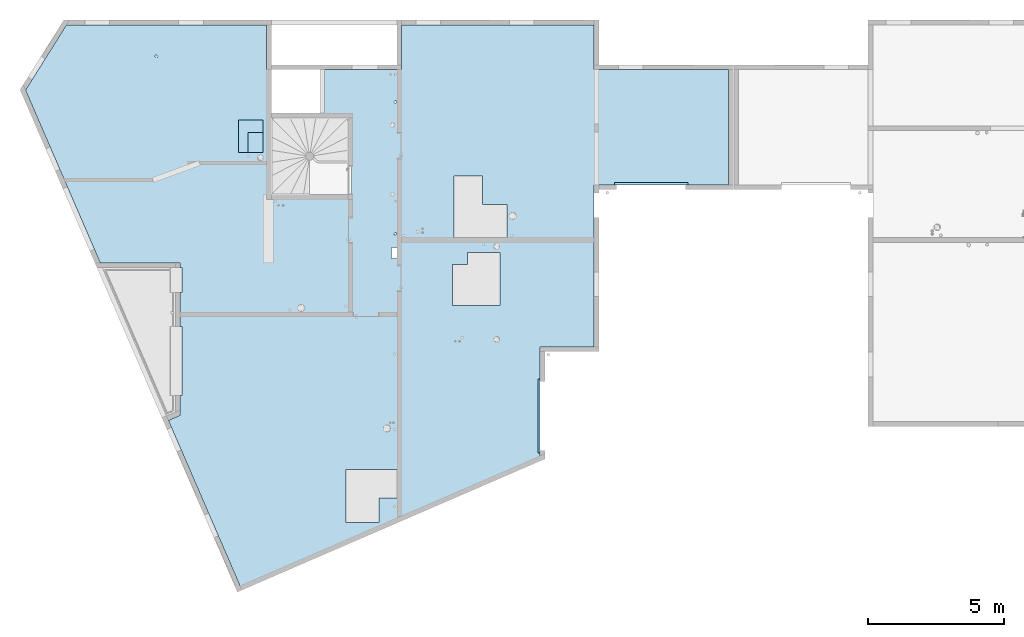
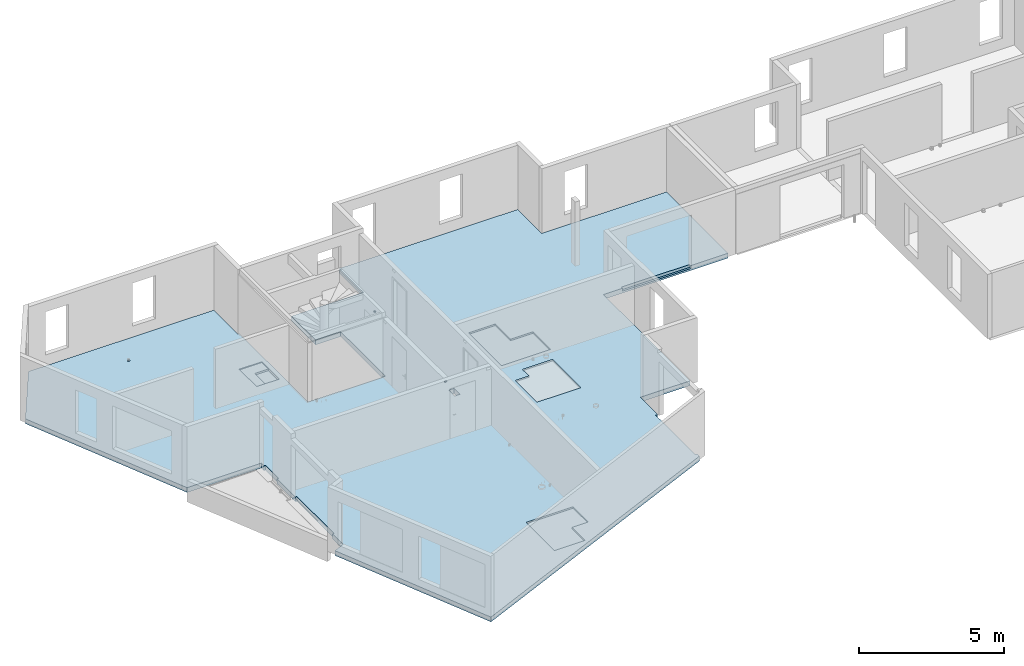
# One storey, part 20 of 30: 1 slab.
"""IFC2X3 building model written with IfcOpenShell, lengths in centimetres."""

from ifc_helpers import new_model, entity, si_unit, converted_unit, derived_unit, direction, frame, origin, place, context, subcontext, project, spatial, faceted_brep, material, element, save


model = new_model("IFC2X3")

# Units and contexts
model_context = context("Model", 3, precision=0.001, world=origin(), true_north=direction((6.12303176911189e-17, 1.0)))
body_context = subcontext(model_context, "Body", "Model", "MODEL_VIEW")
ifc_project = project(units=[si_unit("LENGTHUNIT", "METRE", prefix="CENTI"), si_unit("AREAUNIT", "SQUARE_METRE"), si_unit("VOLUMEUNIT", "CUBIC_METRE"), converted_unit("PLANEANGLEUNIT", "DEGREE", entity("IfcRatioMeasure", 0.0174532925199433), si_unit("PLANEANGLEUNIT", "RADIAN"), dimensions=[0, 0, 0, 0, 0, 0, 0]), si_unit("MASSUNIT", "GRAM", prefix="KILO"), derived_unit("MASSDENSITYUNIT", [(si_unit("MASSUNIT", "GRAM", prefix="KILO"), 1), (si_unit("LENGTHUNIT", "METRE"), -3)]), si_unit("TIMEUNIT", "SECOND"), si_unit("FREQUENCYUNIT", "HERTZ"), si_unit("THERMODYNAMICTEMPERATUREUNIT", "DEGREE_CELSIUS"), derived_unit("THERMALTRANSMITTANCEUNIT", [(si_unit("MASSUNIT", "GRAM", prefix="KILO"), 1), (si_unit("THERMODYNAMICTEMPERATUREUNIT", "KELVIN"), -1), (si_unit("TIMEUNIT", "SECOND"), -3)]), derived_unit("VOLUMETRICFLOWRATEUNIT", [(si_unit("LENGTHUNIT", "METRE"), 3), (si_unit("TIMEUNIT", "SECOND"), -1)]), si_unit("ELECTRICCURRENTUNIT", "AMPERE"), si_unit("ELECTRICVOLTAGEUNIT", "VOLT"), si_unit("POWERUNIT", "WATT"), si_unit("FORCEUNIT", "NEWTON"), si_unit("ILLUMINANCEUNIT", "LUX"), si_unit("LUMINOUSFLUXUNIT", "LUMEN"), si_unit("LUMINOUSINTENSITYUNIT", "CANDELA"), derived_unit("USERDEFINED", [(si_unit("MASSUNIT", "GRAM", prefix="KILO"), -1), (si_unit("LENGTHUNIT", "METRE"), -2), (si_unit("TIMEUNIT", "SECOND"), 3), (si_unit("LUMINOUSFLUXUNIT", "LUMEN"), 1)]), derived_unit("LINEARVELOCITYUNIT", [(si_unit("LENGTHUNIT", "METRE"), 1), (si_unit("TIMEUNIT", "SECOND"), -1)]), si_unit("PRESSUREUNIT", "PASCAL"), derived_unit("USERDEFINED", [(si_unit("LENGTHUNIT", "METRE"), -2), (si_unit("MASSUNIT", "GRAM", prefix="KILO"), 1), (si_unit("TIMEUNIT", "SECOND"), -2)])], contexts=[model_context])

# Site, building, storey
site_placement = place(None, origin())
site = spatial("IfcSite", under=ifc_project, at=site_placement, Name="Default", CompositionType="ELEMENT")
building_placement = place(site_placement, origin())
building = spatial("IfcBuilding", under=site, at=building_placement, Name="CAGE 03", CompositionType="ELEMENT")
storey_placement = place(building_placement, frame((0.0, 0.0, 610.0)))
storey = spatial("IfcBuildingStorey", under=building, at=storey_placement, Name="R+2", CompositionType="ELEMENT", Elevation=610.0)

# Slab
ifc_material = material(Name="Béton, C25/30")
slab_placement = place(storey_placement, origin())
element("IfcSlab", 1, at=slab_placement, inside=storey, material=ifc_material, Name="Sol:Dalle Béton - 20 cm", ObjectType="Sol:Dalle Béton - 20 cm", PredefinedType="FLOOR", context=body_context, shape_type="Brep", body=[
    faceted_brep([(3336.86582014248, 3910.66066607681, -20.0), (3336.86582014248, 3838.10990801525, -20.0), (3336.86582014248, 3838.10990801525, 0.0), (3336.86582014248, 3857.72260825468, 0.0), (3336.86582014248, 3910.66066607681, 0.0), (3336.86582014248, 4399.66066607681, -20.0), (3336.86582014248, 4381.66066607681, -20.0), (3336.86582014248, 4381.66066607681, 0.0), (3336.86582014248, 4399.66066607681, 0.0), (3336.86582014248, 4290.66066607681, -20.0), (3336.86582014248, 4165.66066607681, -20.0), (3336.86582014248, 4165.66066607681, 0.0), (3336.86582014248, 4200.16066607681, 0.0), (3336.86582014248, 4218.16066607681, 0.0), (3336.86582014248, 4290.66066607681, 0.0), (4152.36582014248, 5110.66066607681, -20.0), (4860.36582014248, 5110.66066607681, -20.0), (4134.36582014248, 4991.66066607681, -20.0), (4152.36582014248, 5275.66066607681, -20.0), (4133.52533700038, 4992.33092901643, -20.0), (4132.68485385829, 4993.00119195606, -20.0), (4131.84437071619, 4993.67145489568, -20.0), (4131.0038875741, 4994.34171783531, -20.0), (4130.163404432, 4995.01198077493, -20.0), (4129.32292128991, 4995.68224371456, -20.0), (4128.48243814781, 4996.35250665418, -20.0), (4127.64195500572, 4997.02276959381, -20.0), (4134.36582014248, 5110.66066607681, -20.0), (4860.36582014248, 5275.66066607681, -20.0), (4860.36582014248, 4686.66066607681, -20.0), (5355.36582014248, 4686.66066607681, -20.0), (5355.36582014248, 5110.66066607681, -20.0), (4134.36582014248, 4506.16066607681, -20.0), (4860.36582014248, 4492.66066607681, -20.0), (4860.36582014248, 4474.66066607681, -20.0), (4134.36582014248, 4456.16066607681, -20.0), (4134.36582014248, 4416.16066607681, -20.0), (4662.36582014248, 4090.16066607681, -20.0), (4860.36582014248, 4090.16066607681, -20.0), (4662.36582014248, 3689.23240252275, -20.0), (4114.36582014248, 4416.16066607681, -20.0), (3425.69889799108, 3513.71167058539, -20.0), (4662.36582014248, 3683.23963300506, -20.0), (3556.74395100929, 3210.84669393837, -20.0), (3558.92803522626, 3205.79894432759, -20.0), (3418.55098600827, 3530.2315784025, -20.0), (3342.86582014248, 3910.66066607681, -20.0), (3293.46252630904, 3819.329965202, -20.0), (3342.86582014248, 4165.66066607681, -20.0), (3342.86582014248, 4290.66066607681, -20.0), (3672.36582014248, 4638.16066607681, -20.0), (3659.86582014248, 4638.16066607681, -20.0), (3342.86582014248, 4381.66066607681, -20.0), (3251.8378549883, 5154.93715083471, -20.0), (3250.4628549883, 5154.93715083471, -20.0), (3249.0878549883, 5154.93715083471, -20.0), (3247.7128549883, 5154.93715083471, -20.0), (3246.3378549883, 5154.93715083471, -20.0), (3042.36228914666, 4399.66066607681, -20.0), (2767.3065813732, 5035.35608984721, -20.0), (3245.55628604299, 5156.2908679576, -20.0), (3244.77471709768, 5157.64458508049, -20.0), (3244.18128604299, 5158.67243781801, -20.0), (3243.5878549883, 5159.70029055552, -20.0), (2918.20488781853, 5275.66066607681, -20.0), (3244.2753549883, 5160.89107548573, -20.0), (3244.9628549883, 5162.08186041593, -20.0), (3245.6503549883, 5163.27264534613, -20.0), (3246.3378549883, 5164.46343027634, -20.0), (3247.7128549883, 5164.46343027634, -20.0), (3249.0878549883, 5164.46343027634, -20.0), (3250.4628549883, 5164.46343027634, -20.0), (3251.8378549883, 5164.46343027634, -20.0), (3654.36582014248, 5275.66066607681, -20.0), (3252.5253549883, 5163.27264534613, -20.0), (3253.2128549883, 5162.08186041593, -20.0), (3253.9003549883, 5160.89107548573, -20.0), (3254.5878549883, 5159.70029055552, -20.0), (3654.36582014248, 5110.66066607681, -20.0), (3252.5253549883, 5156.12793576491, -20.0), (3659.86582014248, 5110.66066607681, -20.0), (3253.2128549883, 5157.31872069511, -20.0), (3253.9003549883, 5158.50950562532, -20.0), (3954.36582014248, 4638.16066607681, -20.0), (4114.36582014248, 4456.16066607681, -20.0), (3966.86582014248, 4638.16066607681, -20.0), (4123.36582014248, 4506.16066607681, -20.0), (4124.43485385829, 4507.50119195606, -20.0), (4125.5038875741, 4508.84171783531, -20.0), (4126.57292128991, 4510.18224371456, -20.0), (4127.64195500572, 4511.52276959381, -20.0), (4130.08968527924, 4986.29856255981, -20.0), (3966.86582014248, 4932.66066607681, -20.0), (4129.24920213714, 4986.96882549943, -20.0), (4128.40871899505, 4987.63908843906, -20.0), (4127.56823585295, 4988.30935137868, -20.0), (4126.72775271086, 4988.97961431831, -20.0), (4125.88726956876, 4989.64987725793, -20.0), (4125.04678642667, 4990.32014019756, -20.0), (4124.20630328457, 4990.99040313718, -20.0), (4123.36582014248, 4991.66066607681, -20.0), (3966.86582014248, 4945.16066607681, -20.0), (3870.36582014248, 5110.66066607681, -20.0), (3867.36582014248, 4950.66066607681, -20.0), (3867.36582014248, 4945.16066607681, -20.0), (3867.36582014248, 5110.66066607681, -20.0), (4126.57292128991, 4995.68224371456, -20.0), (4125.5038875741, 4994.34171783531, -20.0), (4124.43485385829, 4993.00119195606, -20.0), (4131.15871899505, 4987.63908843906, -20.0), (4133.52533700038, 4506.83092901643, -20.0), (4132.68485385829, 4507.50119195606, -20.0), (4131.84437071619, 4508.17145489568, -20.0), (4131.0038875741, 4508.84171783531, -20.0), (4130.163404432, 4509.51198077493, -20.0), (4129.32292128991, 4510.18224371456, -20.0), (4128.48243814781, 4510.85250665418, -20.0), (4132.22775271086, 4988.97961431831, -20.0), (4133.29678642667, 4990.32014019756, -20.0), (4124.20630328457, 4505.49040313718, -20.0), (4125.04678642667, 4504.82014019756, -20.0), (4125.88726956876, 4504.14987725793, -20.0), (4126.72775271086, 4503.47961431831, -20.0), (4127.56823585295, 4502.80935137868, -20.0), (4128.40871899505, 4502.13908843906, -20.0), (4129.24920213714, 4501.46882549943, -20.0), (4130.08968527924, 4500.79856255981, -20.0), (4131.15871899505, 4502.13908843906, -20.0), (4132.22775271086, 4503.47961431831, -20.0), (4133.29678642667, 4504.82014019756, -20.0), (4654.36582014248, 3700.16066607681, 0.0), (4662.36582014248, 3683.23963300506, 0.0), (4662.36582014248, 3700.16066607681, 0.0), (4514.86582014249, 4242.66066607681, 0.0), (4662.36582014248, 4090.16066607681, 0.0), (4860.36582014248, 4474.66066607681, 0.0), (4662.36582014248, 4072.16066607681, 0.0), (4662.36582014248, 3971.16066607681, 0.0), (4654.36582014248, 3971.16066607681, 0.0), (4134.36582014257, 3532.6606660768, 0.0), (4134.36582014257, 3637.6606660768, 0.0), (4339.86582014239, 4242.66066607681, 0.0), (3947.36582014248, 3637.66066607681, 0.0), (4860.36582014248, 4090.16066607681, 0.0), (4069.36582014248, 3442.66066607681, 0.0), (4394.86582014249, 4437.66066607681, 0.0), (4514.86582014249, 4437.66066607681, 0.0), (4539.37079311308, 4492.66066607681, 0.0), (4394.86582014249, 4392.66066607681, 0.0), (4339.86582014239, 4392.66066607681, 0.0), (4860.36582014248, 4492.66066607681, 0.0), (4344.37079311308, 4492.66066607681, 0.0), (4134.36582014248, 4456.16066607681, 0.0), (4134.36582014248, 4416.16066607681, 0.0), (4134.36582014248, 4506.16066607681, 0.0), (4133.52533700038, 4505.49040313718, 0.0), (4130.08968527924, 4511.52276959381, 0.0), (4131.15871899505, 4510.18224371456, 0.0), (4114.36582014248, 4416.16066607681, 0.0), (4539.37079311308, 4614.66066607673, 0.0), (4127.64195500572, 4500.79856255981, 0.0), (4114.36582014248, 4456.16066607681, 0.0), (3558.92803522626, 3205.79894432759, 0.0), (3947.36582014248, 3442.66066607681, 0.0), (3556.74395100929, 3210.84669393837, 0.0), (4069.36582014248, 3532.66066607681, 0.0), (3342.86582014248, 4165.66066607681, 0.0), (3342.86582014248, 3910.66066607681, 0.0), (3293.46252630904, 3819.329965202, 0.0), (3342.86582014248, 4290.66066607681, 0.0), (3659.86582014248, 4638.16066607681, 0.0), (3342.86582014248, 4381.66066607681, 0.0), (3672.36582014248, 4638.16066607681, 0.0), (3954.36582014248, 4638.16066607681, 0.0), (2913.85492201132, 4696.66066607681, 0.0), (3042.36228914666, 4399.66066607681, 0.0), (3318.86582014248, 4399.66066607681, 0.0), (3552.36582014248, 4805.16066607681, 0.0), (4123.36582014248, 4506.16066607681, 0.0), (3966.86582014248, 4638.16066607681, 0.0), (4126.57292128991, 4502.13908843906, 0.0), (4878.36582014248, 4686.66066607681, 0.0), (4935.36582014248, 4686.66066607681, 0.0), (4935.36582014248, 4694.66066607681, 0.0), (5206.36582014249, 4694.66066607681, 0.0), (5355.36582014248, 4686.66066607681, 0.0), (5355.36582014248, 5110.66066607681, 0.0), (4860.36582014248, 5110.66066607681, 0.0), (5206.36582014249, 4686.66066607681, 0.0), (4860.36582014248, 4686.66066607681, 0.0), (4344.37079311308, 4719.66066607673, 0.0), (4449.37079311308, 4719.66066607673, 0.0), (4449.37079311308, 4614.66066607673, 0.0), (4127.64195500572, 4986.29856255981, 0.0), (4152.36582014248, 5110.66066607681, 0.0), (4860.36582014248, 5128.66066607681, 0.0), (4860.36582014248, 5275.66066607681, 0.0), (4152.36582014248, 5275.66066607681, 0.0), (4152.36582014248, 5128.66066607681, 0.0), (4134.36582014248, 4991.66066607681, 0.0), (4133.52533700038, 4990.99040313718, 0.0), (3966.86582014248, 4932.66066607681, 0.0), (4134.36582014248, 5110.66066607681, 0.0), (4123.36582014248, 4991.66066607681, 0.0), (4124.20630328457, 4992.33092901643, 0.0), (4130.08968527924, 4997.02276959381, 0.0), (4131.15871899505, 4995.68224371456, 0.0), (4126.57292128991, 4987.63908843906, 0.0), (3966.86582014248, 4945.16066607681, 0.0), (3867.36582014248, 4945.16066607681, 0.0), (3867.36582014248, 4950.66066607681, 0.0), (3246.3378549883, 5154.93715083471, 0.0), (2906.93196620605, 4712.66066607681, 0.0), (3642.36582014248, 4805.16066607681, 0.0), (3654.36582014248, 5110.66066607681, 0.0), (3552.36582014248, 4925.16066607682, 0.0), (3642.36582014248, 4925.16066607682, 0.0), (3251.8378549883, 5154.93715083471, 0.0), (3867.36582014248, 5110.66066607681, 0.0), (3659.86582014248, 5110.66066607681, 0.0), (3654.36582014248, 5275.66066607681, 0.0), (3254.5878549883, 5159.70029055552, 0.0), (3251.8378549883, 5164.46343027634, 0.0), (3252.5253549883, 5163.27264534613, 0.0), (3253.9944239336, 5158.672437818, 0.0), (2767.3065813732, 5035.35608984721, 0.0), (3250.4628549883, 5154.93715083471, 0.0), (3245.6503549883, 5156.12793576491, 0.0), (2918.20488781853, 5275.66066607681, 0.0), (3246.3378549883, 5164.46343027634, 0.0), (3247.7128549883, 5164.46343027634, 0.0), (3243.5878549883, 5159.70029055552, 0.0), (3244.18128604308, 5160.72814329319, 0.0), (4124.20630328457, 4506.83092901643, 0.0), (4132.68485385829, 4504.82014019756, 0.0), (4131.84437071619, 4504.14987725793, 0.0), (4131.0038875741, 4503.47961431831, 0.0), (4130.163404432, 4502.80935137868, 0.0), (4129.32292128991, 4502.13908843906, 0.0), (4128.48243814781, 4501.46882549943, 0.0), (4132.22775271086, 4508.84171783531, 0.0), (4133.29678642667, 4507.50119195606, 0.0), (4125.5038875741, 4503.47961431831, 0.0), (4124.43485385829, 4504.82014019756, 0.0), (4132.68485385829, 4990.32014019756, 0.0), (4131.84437071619, 4989.64987725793, 0.0), (4131.0038875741, 4988.97961431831, 0.0), (4130.163404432, 4988.30935137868, 0.0), (4129.32292128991, 4987.63908843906, 0.0), (4128.48243814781, 4986.96882549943, 0.0), (4125.04678642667, 4993.00119195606, 0.0), (4125.88726956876, 4993.67145489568, 0.0), (4126.72775271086, 4994.34171783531, 0.0), (4127.56823585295, 4995.01198077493, 0.0), (4128.40871899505, 4995.68224371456, 0.0), (4129.24920213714, 4996.35250665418, 0.0), (4132.22775271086, 4994.34171783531, 0.0), (4133.29678642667, 4993.00119195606, 0.0), (4125.5038875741, 4988.97961431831, 0.0), (4124.43485385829, 4990.32014019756, 0.0), (3253.2128549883, 5162.08186041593, 0.0), (3253.99442391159, 5160.72814333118, 0.0), (3253.2128549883, 5157.31872069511, 0.0), (3252.5253549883, 5156.12793576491, 0.0), (3249.0878549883, 5154.93715083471, 0.0), (3247.7128549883, 5154.93715083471, 0.0), (3244.9628549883, 5157.31872069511, 0.0), (3244.2753549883, 5158.50950562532, 0.0), (3249.0878549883, 5164.46343027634, 0.0), (3250.4628549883, 5164.46343027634, 0.0), (3244.9628549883, 5162.08186041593, 0.0), (3245.6503549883, 5163.27264534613, 0.0), (4125.04678642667, 4507.50119195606, 0.0), (4125.88726956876, 4508.17145489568, 0.0), (4126.72775271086, 4508.84171783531, 0.0), (4127.56823585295, 4509.51198077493, 0.0), (4128.40871899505, 4510.18224371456, 0.0), (4129.24920213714, 4510.85250665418, 0.0), (3867.36582014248, 5110.66066607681, -7.0), (5206.36582014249, 4686.66066607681, -12.0), (4935.36582014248, 4686.66066607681, -12.0), (4662.36582014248, 3971.16066607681, -12.0), (4662.36582014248, 3700.16066607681, -12.0), (5206.36582014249, 4694.66066607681, -12.0), (4935.36582014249, 4694.66066607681, -12.0), (4654.36582014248, 3971.16066607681, -12.0), (4654.36582014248, 3700.16066607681, -12.0), (4069.36582014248, 3532.66066607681, -6.0), (4134.36582014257, 3532.6606660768, -6.0), (4134.36582014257, 3637.6606660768, -6.0), (3947.36582014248, 3637.66066607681, -6.0), (3947.36582014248, 3442.66066607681, -6.0), (4069.36582014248, 3442.66066607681, -6.0), (4449.37079311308, 4614.66066607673, -6.0), (4449.37079311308, 4719.66066607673, -6.0), (4344.37079311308, 4719.66066607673, -6.0), (4344.37079311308, 4492.66066607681, -6.0), (4539.37079311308, 4492.66066607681, -6.0), (4539.37079311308, 4614.66066607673, -6.0), (4339.86582014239, 4392.66066607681, -6.0), (4339.86582014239, 4242.66066607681, -6.0), (4514.86582014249, 4242.66066607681, -6.0), (4514.86582014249, 4437.66066607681, -6.0), (4394.86582014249, 4437.66066607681, -6.0), (4394.86582014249, 4392.66066607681, -6.0), (3587.36582014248, 4805.16066607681, -3.0), (3587.36582014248, 4880.16066607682, -3.0), (3642.36582014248, 4880.16066607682, -3.0), (3642.36582014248, 4925.16066607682, -3.0), (3552.36582014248, 4925.16066607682, -3.0), (3552.36582014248, 4805.16066607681, -3.0), (3642.36582014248, 4805.16066607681, -10.0), (3587.36582014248, 4805.16066607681, -10.0), (3642.36582014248, 4880.16066607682, -10.0), (3587.36582014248, 4880.16066607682, -10.0), (3342.86582014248, 4165.66066607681, -2.49999999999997), (3342.86582014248, 3910.66066607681, -2.49999999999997), (3342.86582014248, 4381.66066607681, -2.49999999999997), (3342.86582014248, 4290.66066607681, -2.49999999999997)], [[[0, 1, 2, 3, 4]], [[5, 6, 7, 8]], [[9, 10, 11, 12, 13, 14]], [[15, 16, 17]], [[18, 16, 15]], [[15, 17, 19]], [[15, 19, 20]], [[15, 20, 21]], [[15, 21, 22]], [[15, 22, 23]], [[15, 23, 24]], [[15, 24, 25]], [[15, 25, 26]], [[27, 15, 26]], [[28, 16, 18]], [[29, 17, 16]], [[29, 16, 30]], [[16, 31, 30]], [[29, 32, 17]], [[29, 33, 32]], [[33, 34, 32]], [[35, 32, 34]], [[34, 36, 35]], [[36, 34, 37]], [[37, 34, 38]], [[37, 39, 36]], [[40, 36, 39]], [[40, 39, 41]], [[39, 42, 41]], [[43, 41, 42]], [[44, 43, 42]], [[40, 41, 45]], [[45, 46, 40]], [[46, 45, 1]], [[47, 1, 45]], [[0, 46, 1]], [[46, 48, 40]], [[49, 40, 48]], [[49, 48, 9]], [[9, 48, 10]], [[40, 49, 50]], [[50, 49, 51]], [[49, 52, 51]], [[5, 51, 52]], [[5, 52, 6]], [[51, 5, 53]], [[5, 54, 53]], [[5, 55, 54]], [[5, 56, 55]], [[5, 57, 56]], [[58, 57, 5]], [[58, 59, 57]], [[59, 60, 57]], [[59, 61, 60]], [[59, 62, 61]], [[59, 63, 62]], [[64, 63, 59]], [[64, 65, 63]], [[64, 66, 65]], [[64, 67, 66]], [[64, 68, 67]], [[64, 69, 68]], [[64, 70, 69]], [[64, 71, 70]], [[64, 72, 71]], [[73, 72, 64]], [[73, 74, 72]], [[73, 75, 74]], [[73, 76, 75]], [[73, 77, 76]], [[77, 73, 78]], [[78, 53, 79]], [[51, 78, 80]], [[51, 53, 78]], [[78, 79, 81]], [[78, 81, 82]], [[78, 82, 77]], [[40, 50, 83]], [[84, 40, 83]], [[84, 83, 85]], [[86, 84, 85]], [[85, 87, 86]], [[85, 88, 87]], [[85, 89, 88]], [[85, 90, 89]], [[91, 90, 85]], [[85, 92, 91]], [[92, 93, 91]], [[92, 94, 93]], [[92, 95, 94]], [[92, 96, 95]], [[92, 97, 96]], [[92, 98, 97]], [[92, 99, 98]], [[92, 100, 99]], [[92, 101, 100]], [[102, 27, 101]], [[100, 101, 27]], [[102, 101, 103]], [[101, 104, 103]], [[105, 102, 103]], [[27, 26, 106]], [[27, 106, 107]], [[27, 107, 108]], [[27, 108, 100]], [[32, 91, 109]], [[91, 32, 110]], [[91, 110, 111]], [[91, 111, 112]], [[91, 112, 113]], [[91, 113, 114]], [[91, 114, 115]], [[91, 115, 116]], [[91, 116, 90]], [[32, 109, 117]], [[32, 117, 118]], [[32, 118, 17]], [[84, 86, 119]], [[84, 119, 120]], [[84, 120, 121]], [[84, 121, 122]], [[84, 122, 123]], [[84, 123, 124]], [[84, 124, 125]], [[84, 125, 126]], [[35, 126, 127]], [[35, 84, 126]], [[35, 127, 128]], [[35, 128, 129]], [[35, 129, 32]], [[130, 131, 132]], [[133, 134, 135]], [[136, 134, 133]], [[137, 136, 138]], [[139, 130, 140]], [[130, 139, 131]], [[140, 130, 138]], [[138, 133, 141]], [[133, 138, 136]], [[138, 141, 140]], [[142, 140, 141]], [[134, 143, 135]], [[131, 139, 144]], [[145, 146, 147]], [[148, 145, 149]], [[135, 150, 147]], [[135, 147, 146]], [[133, 135, 146]], [[145, 147, 151]], [[149, 152, 153]], [[152, 149, 151]], [[149, 153, 141]], [[152, 154, 155]], [[151, 156, 157]], [[154, 152, 151]], [[149, 145, 151]], [[158, 141, 153]], [[147, 150, 159]], [[152, 160, 161]], [[162, 163, 164]], [[163, 162, 144]], [[164, 163, 142]], [[144, 139, 165]], [[166, 167, 142]], [[162, 131, 144]], [[164, 142, 2]], [[2, 168, 164]], [[3, 2, 167]], [[167, 4, 3]], [[2, 142, 167]], [[13, 166, 169]], [[169, 166, 158]], [[170, 171, 169]], [[141, 158, 142]], [[8, 171, 170]], [[172, 169, 158]], [[166, 142, 158]], [[158, 161, 173]], [[13, 12, 166]], [[14, 13, 169]], [[8, 7, 171]], [[174, 175, 176]], [[176, 8, 177]], [[178, 179, 161]], [[12, 11, 166]], [[161, 160, 180]], [[181, 182, 183]], [[184, 185, 186]], [[183, 187, 181]], [[184, 188, 185]], [[189, 181, 187]], [[151, 190, 156]], [[156, 190, 179]], [[159, 191, 192]], [[189, 191, 159]], [[179, 190, 193]], [[189, 159, 150]], [[179, 173, 161]], [[183, 184, 187]], [[189, 187, 191]], [[187, 184, 186]], [[194, 191, 187]], [[195, 196, 197]], [[187, 195, 198]], [[197, 198, 195]], [[190, 199, 200]], [[179, 193, 201]], [[198, 194, 187]], [[202, 203, 204]], [[202, 205, 194]], [[194, 205, 206]], [[199, 191, 194]], [[201, 193, 207]], [[203, 202, 208]], [[199, 190, 191]], [[170, 169, 172]], [[172, 158, 173]], [[208, 201, 203]], [[209, 208, 210]], [[211, 212, 174]], [[177, 170, 213]], [[176, 177, 174]], [[214, 215, 216]], [[211, 174, 177]], [[170, 216, 213]], [[217, 177, 215]], [[8, 170, 177]], [[218, 210, 208]], [[219, 214, 216]], [[214, 220, 221]], [[220, 222, 223]], [[221, 215, 214]], [[215, 221, 224]], [[212, 211, 225]], [[177, 217, 226]], [[225, 211, 227]], [[228, 229, 230]], [[231, 228, 225]], [[228, 231, 232]], [[222, 220, 228]], [[219, 216, 170]], [[208, 202, 218]], [[179, 178, 233]], [[152, 155, 234]], [[152, 234, 235]], [[152, 235, 236]], [[152, 236, 237]], [[152, 237, 238]], [[152, 238, 239]], [[152, 239, 160]], [[151, 157, 240]], [[151, 240, 241]], [[151, 241, 154]], [[161, 180, 242]], [[161, 242, 243]], [[161, 243, 178]], [[190, 200, 244]], [[190, 244, 245]], [[190, 245, 246]], [[190, 246, 247]], [[190, 247, 248]], [[190, 248, 249]], [[190, 249, 193]], [[202, 204, 250]], [[202, 250, 251]], [[202, 251, 252]], [[202, 252, 253]], [[202, 253, 254]], [[202, 254, 255]], [[202, 255, 205]], [[194, 206, 256]], [[194, 256, 257]], [[194, 257, 199]], [[201, 207, 258]], [[201, 258, 259]], [[201, 259, 203]], [[220, 223, 260]], [[220, 260, 261]], [[220, 261, 221]], [[215, 224, 262]], [[215, 262, 263]], [[215, 263, 217]], [[177, 226, 264]], [[177, 264, 265]], [[177, 265, 211]], [[225, 227, 266]], [[225, 266, 267]], [[225, 267, 231]], [[228, 230, 268]], [[228, 268, 269]], [[228, 269, 222]], [[228, 232, 270]], [[228, 270, 271]], [[228, 271, 229]], [[179, 233, 272]], [[179, 272, 273]], [[179, 273, 274]], [[179, 274, 275]], [[179, 275, 276]], [[179, 276, 277]], [[179, 277, 156]], [[78, 73, 220, 214]], [[102, 105, 278, 218, 202, 194, 15, 27]], [[31, 16, 187, 186]], [[80, 78, 214, 219]], [[18, 15, 194, 198, 197]], [[28, 18, 197, 196]], [[73, 64, 228, 220]], [[16, 28, 196, 195, 187]], [[34, 33, 29, 189, 150, 135, 143, 38]], [[30, 31, 186, 185]], [[30, 185, 188, 279, 280, 182, 181, 189, 29]], [[37, 38, 143, 134]], [[37, 134, 136, 137, 281, 282, 132, 131, 42, 39]], [[44, 42, 131, 162]], [[47, 45, 41, 43, 44, 162, 164, 168]], [[59, 58, 175, 174, 212, 225]], [[1, 47, 168, 2]], [[58, 5, 8, 176, 175]], [[64, 59, 225, 228]], [[104, 101, 208, 209]], [[50, 51, 170, 172, 173, 179, 85, 83]], [[92, 85, 179, 201, 208, 101]], [[103, 104, 209, 210, 218, 278, 105]], [[283, 184, 183, 284]], [[283, 284, 280, 279]], [[281, 285, 286, 282]], [[130, 132, 282, 286]], [[281, 137, 138, 285]], [[285, 138, 130, 286]], [[280, 284, 183, 182]], [[283, 279, 188, 184]], [[287, 288, 289, 290, 291, 292]], [[293, 294, 295, 296, 297, 298]], [[299, 300, 301, 302, 303, 304]], [[290, 289, 140, 142]], [[290, 142, 163, 291]], [[288, 139, 140, 289]], [[36, 153, 152, 35]], [[292, 291, 163, 144]], [[292, 144, 165, 287]], [[287, 165, 139, 288]], [[294, 191, 190, 295]], [[298, 297, 147, 159]], [[296, 151, 147, 297]], [[295, 190, 151, 296]], [[298, 159, 192, 293]], [[293, 192, 191, 294]], [[302, 146, 145, 303]], [[299, 149, 141, 300]], [[301, 133, 146, 302]], [[300, 141, 133, 301]], [[303, 145, 148, 304]], [[304, 148, 149, 299]], [[60, 61, 62, 63, 231, 267, 266, 227, 211, 57]], [[224, 221, 77, 82, 81, 79, 53, 217, 263, 262]], [[217, 53, 54, 55, 56, 57, 211, 265, 264, 226]], [[223, 222, 72, 74, 75, 76, 77, 221, 261, 260]], [[66, 67, 68, 229, 271, 270, 232, 231, 63, 65]], [[71, 72, 222, 269, 268, 230, 229, 68, 69, 70]], [[305, 306, 307, 308, 309, 310]], [[309, 215, 177, 310]], [[177, 213, 311, 312, 305, 310]], [[307, 313, 311, 213, 216, 308]], [[308, 216, 215, 309]], [[314, 312, 311, 313]], [[314, 306, 305, 312]], [[314, 313, 307, 306]], [[51, 80, 219, 170]], [[84, 161, 158, 40]], [[40, 158, 153, 36]], [[35, 152, 161, 84]], [[258, 207, 96]], [[249, 248, 247, 91]], [[118, 244, 200]], [[259, 98, 99]], [[246, 117, 109]], [[95, 207, 193]], [[249, 91, 93]], [[193, 93, 94, 95]], [[259, 258, 98]], [[200, 199, 17]], [[99, 100, 203]], [[249, 93, 193]], [[247, 246, 109]], [[118, 200, 17]], [[118, 117, 244]], [[259, 99, 203]], [[247, 109, 91]], [[245, 244, 117, 246]], [[97, 98, 258, 96]], [[95, 96, 207]], [[256, 20, 257]], [[26, 254, 253]], [[205, 255, 24]], [[108, 250, 204]], [[252, 107, 106]], [[205, 23, 206]], [[25, 24, 255]], [[255, 254, 25]], [[22, 206, 23]], [[256, 22, 21, 20]], [[20, 19, 257]], [[204, 203, 100]], [[253, 106, 26]], [[251, 250, 107, 252]], [[254, 26, 25]], [[253, 252, 106]], [[108, 204, 100]], [[22, 256, 206]], [[205, 24, 23]], [[257, 19, 199]], [[199, 19, 17]], [[108, 107, 250]], [[242, 180, 122]], [[239, 238, 237, 126]], [[129, 234, 155]], [[243, 120, 119]], [[236, 128, 127]], [[123, 180, 160]], [[239, 126, 125]], [[160, 125, 124, 123]], [[243, 242, 120]], [[155, 154, 32]], [[119, 86, 178]], [[239, 125, 160]], [[237, 236, 127]], [[129, 155, 32]], [[129, 128, 234]], [[243, 119, 178]], [[237, 127, 126]], [[235, 234, 128, 236]], [[121, 120, 242, 122]], [[123, 122, 180]], [[240, 111, 241]], [[90, 276, 275]], [[156, 277, 115]], [[87, 272, 233]], [[274, 88, 89]], [[156, 114, 157]], [[116, 115, 277]], [[277, 276, 116]], [[113, 157, 114]], [[240, 113, 112, 111]], [[111, 110, 241]], [[233, 178, 86]], [[275, 89, 90]], [[273, 272, 88, 274]], [[276, 90, 116]], [[275, 274, 89]], [[87, 233, 86]], [[113, 240, 157]], [[156, 115, 114]], [[241, 110, 154]], [[154, 110, 32]], [[87, 88, 272]], [[11, 10, 48, 315, 166]], [[316, 46, 0, 4, 167]], [[167, 166, 315, 48, 46, 316]], [[169, 171, 317, 52, 49, 318]], [[7, 6, 52, 317, 171]], [[318, 49, 9, 14, 169]]]),
])

save(model, "model.ifc")
